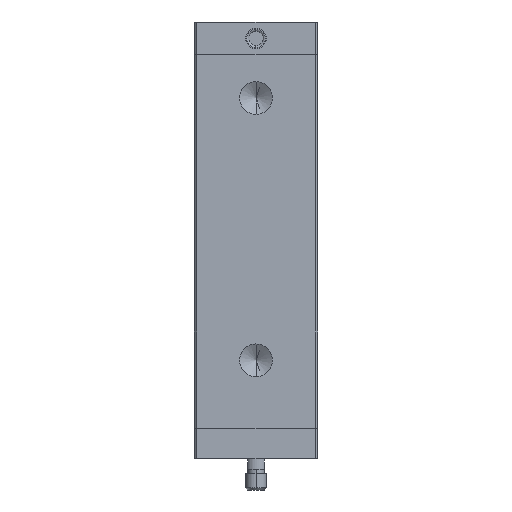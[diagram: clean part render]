
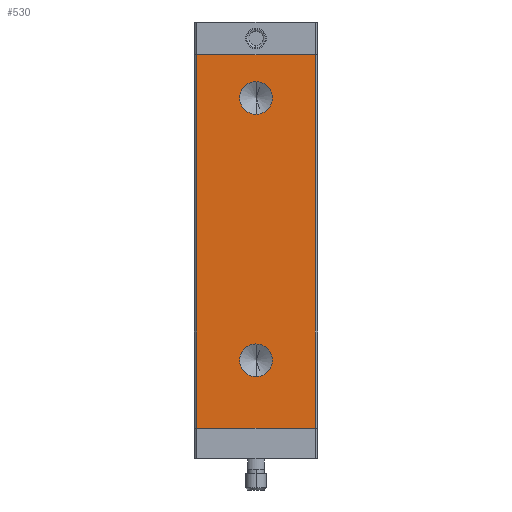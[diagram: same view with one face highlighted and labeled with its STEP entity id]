
A CAD part, left-side view. The second image highlights one B-rep face of the part: STEP entity #530.
In plain terms, the highlighted planar face has unit normal (-1, 0, 0).
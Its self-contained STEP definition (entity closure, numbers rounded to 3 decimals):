
#31 = CARTESIAN_POINT ( 'NONE',  ( -18., 0., -29. ) ) ;
#128 = CARTESIAN_POINT ( 'NONE',  ( -18., 0., -33. ) ) ;
#254 = AXIS2_PLACEMENT_3D ( 'NONE', #31, #3155, #468 ) ;
#257 = AXIS2_PLACEMENT_3D ( 'NONE', #447, #3575, #916 ) ;
#308 = DIRECTION ( 'NONE',  ( 0., 0., 1. ) ) ;
#312 = FACE_BOUND ( 'NONE', #1720, .T. ) ;
#332 = CARTESIAN_POINT ( 'NONE',  ( -18., 0., -29. ) ) ;
#347 = EDGE_CURVE ( 'NONE', #3405, #1069, #3821, .T. ) ;
#447 = CARTESIAN_POINT ( 'NONE',  ( -18., 0., 35. ) ) ;
#468 = DIRECTION ( 'NONE',  ( 0., 0., 1. ) ) ;
#510 = VERTEX_POINT ( 'NONE', #5607 ) ;
#530 = ADVANCED_FACE ( 'NONE', ( #1663, #312, #2724 ), #4016, .F. ) ;
#660 = ORIENTED_EDGE ( 'NONE', *, *, #5642, .T. ) ;
#799 = DIRECTION ( 'NONE',  ( 0., 0., 1. ) ) ;
#853 = CARTESIAN_POINT ( 'NONE',  ( -18., 15., 45.5 ) ) ;
#916 = DIRECTION ( 'NONE',  ( 0., 0., 1. ) ) ;
#957 = ORIENTED_EDGE ( 'NONE', *, *, #2908, .T. ) ;
#1028 = VERTEX_POINT ( 'NONE', #3037 ) ;
#1069 = VERTEX_POINT ( 'NONE', #1773 ) ;
#1075 = CARTESIAN_POINT ( 'NONE',  ( -18., 0., 31. ) ) ;
#1206 = CARTESIAN_POINT ( 'NONE',  ( -18., -14.5, 45.5 ) ) ;
#1233 = VECTOR ( 'NONE', #3517, 1000. ) ;
#1362 = VECTOR ( 'NONE', #5379, 1000. ) ;
#1619 = ORIENTED_EDGE ( 'NONE', *, *, #2525, .F. ) ;
#1663 = FACE_BOUND ( 'NONE', #3971, .T. ) ;
#1720 = EDGE_LOOP ( 'NONE', ( #1619, #4640 ) ) ;
#1773 = CARTESIAN_POINT ( 'NONE',  ( -18., 0., 39. ) ) ;
#1879 = VECTOR ( 'NONE', #3599, 1000. ) ;
#1880 = EDGE_CURVE ( 'NONE', #4861, #510, #2429, .T. ) ;
#2111 = VERTEX_POINT ( 'NONE', #128 ) ;
#2241 = DIRECTION ( 'NONE',  ( 1., 0., 0. ) ) ;
#2244 = VERTEX_POINT ( 'NONE', #5727 ) ;
#2325 = EDGE_CURVE ( 'NONE', #1069, #3405, #5572, .T. ) ;
#2356 = EDGE_CURVE ( 'NONE', #4861, #5192, #3030, .T. ) ;
#2402 = LINE ( 'NONE', #4490, #1362 ) ;
#2410 = ORIENTED_EDGE ( 'NONE', *, *, #2356, .T. ) ;
#2429 = LINE ( 'NONE', #853, #1233 ) ;
#2525 = EDGE_CURVE ( 'NONE', #2244, #2111, #3803, .T. ) ;
#2724 = FACE_OUTER_BOUND ( 'NONE', #4292, .T. ) ;
#2785 = ORIENTED_EDGE ( 'NONE', *, *, #347, .F. ) ;
#2908 = EDGE_CURVE ( 'NONE', #1028, #510, #5278, .T. ) ;
#2985 = DIRECTION ( 'NONE',  ( -1., 0., 0. ) ) ;
#3030 = LINE ( 'NONE', #4948, #1879 ) ;
#3037 = CARTESIAN_POINT ( 'NONE',  ( -18., -14.5, -45.5 ) ) ;
#3122 = CARTESIAN_POINT ( 'NONE',  ( -18., 14.5, 45.5 ) ) ;
#3155 = DIRECTION ( 'NONE',  ( -1., 0., 0. ) ) ;
#3199 = EDGE_CURVE ( 'NONE', #2111, #2244, #4937, .T. ) ;
#3405 = VERTEX_POINT ( 'NONE', #1075 ) ;
#3436 = DIRECTION ( 'NONE',  ( 0., 0., 1. ) ) ;
#3460 = DIRECTION ( 'NONE',  ( -1., 0., 0. ) ) ;
#3517 = DIRECTION ( 'NONE',  ( 0., -1., 0. ) ) ;
#3575 = DIRECTION ( 'NONE',  ( -1., 0., 0. ) ) ;
#3599 = DIRECTION ( 'NONE',  ( 0., 0., -1. ) ) ;
#3696 = CARTESIAN_POINT ( 'NONE',  ( -18., 14.5, -45.5 ) ) ;
#3801 = AXIS2_PLACEMENT_3D ( 'NONE', #4922, #2241, #5371 ) ;
#3803 = CIRCLE ( 'NONE', #5387, 4. ) ;
#3821 = CIRCLE ( 'NONE', #4813, 4. ) ;
#3971 = EDGE_LOOP ( 'NONE', ( #4986, #2785 ) ) ;
#4016 = PLANE ( 'NONE',  #3801 ) ;
#4104 = VECTOR ( 'NONE', #3436, 1000. ) ;
#4292 = EDGE_LOOP ( 'NONE', ( #4516, #2410, #660, #957 ) ) ;
#4490 = CARTESIAN_POINT ( 'NONE',  ( -18., 15., -45.5 ) ) ;
#4516 = ORIENTED_EDGE ( 'NONE', *, *, #1880, .F. ) ;
#4640 = ORIENTED_EDGE ( 'NONE', *, *, #3199, .F. ) ;
#4813 = AXIS2_PLACEMENT_3D ( 'NONE', #5690, #2985, #308 ) ;
#4861 = VERTEX_POINT ( 'NONE', #3122 ) ;
#4922 = CARTESIAN_POINT ( 'NONE',  ( -18., 15., 45.5 ) ) ;
#4937 = CIRCLE ( 'NONE', #254, 4. ) ;
#4948 = CARTESIAN_POINT ( 'NONE',  ( -18., 14.5, 45.5 ) ) ;
#4986 = ORIENTED_EDGE ( 'NONE', *, *, #2325, .F. ) ;
#5192 = VERTEX_POINT ( 'NONE', #3696 ) ;
#5278 = LINE ( 'NONE', #1206, #4104 ) ;
#5371 = DIRECTION ( 'NONE',  ( 0., 0., -1. ) ) ;
#5379 = DIRECTION ( 'NONE',  ( 0., -1., 0. ) ) ;
#5387 = AXIS2_PLACEMENT_3D ( 'NONE', #332, #3460, #799 ) ;
#5572 = CIRCLE ( 'NONE', #257, 4. ) ;
#5607 = CARTESIAN_POINT ( 'NONE',  ( -18., -14.5, 45.5 ) ) ;
#5642 = EDGE_CURVE ( 'NONE', #5192, #1028, #2402, .T. ) ;
#5690 = CARTESIAN_POINT ( 'NONE',  ( -18., 0., 35. ) ) ;
#5727 = CARTESIAN_POINT ( 'NONE',  ( -18., 0., -25. ) ) ;
